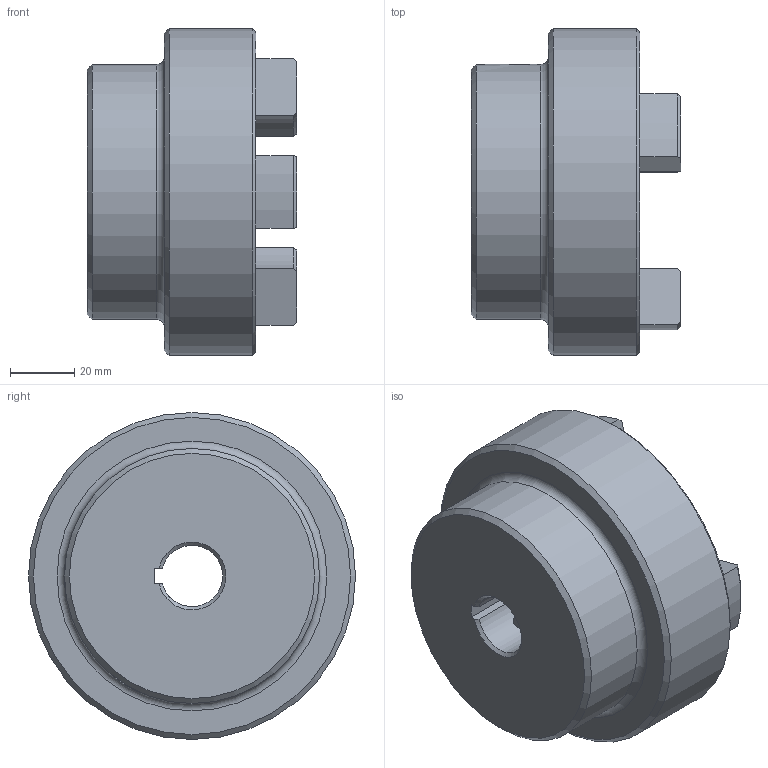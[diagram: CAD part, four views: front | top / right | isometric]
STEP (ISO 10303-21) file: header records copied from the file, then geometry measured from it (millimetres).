
FILE_DESCRIPTION (( 'STEP AP203' ), '1' );
FILE_NAME ('RC4.step', '2024-07-24T17:33:23', ( 'Adlan' ), ( '' ), 'SwSTEP 2.0', 'SolidWorks 2013', '' );
FILE_SCHEMA (( 'CONFIG_CONTROL_DESIGN' ));
Length unit declared in the file: inch
Products named in the file (1): RC4
Bounding box: 65.02 x 101.6 x 101.6 mm (x, y, z)
Volume: 268447.5 mm3; surface area: 40961.4 mm2
Topology: 1 solids, 1 shells, 70 faces, 180 edges, 113 vertices
Faces by surface type: cylinder 26, plane 19, torus 13, cone 12
Full cylindrical faces by diameter (mm): 5.105 x2, 79.248 x1, 101.6 x1
Entity records: 2367 total; most frequent: CARTESIAN_POINT 603, DIRECTION 370, ORIENTED_EDGE 332, EDGE_CURVE 166, AXIS2_PLACEMENT_3D 146, VERTEX_POINT 109, EDGE_LOOP 87, VECTOR 78
